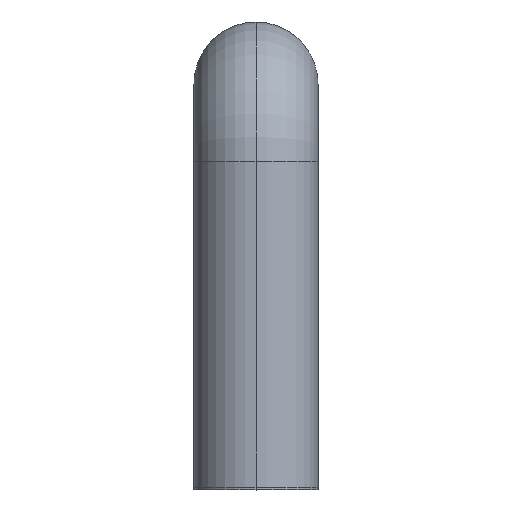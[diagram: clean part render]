
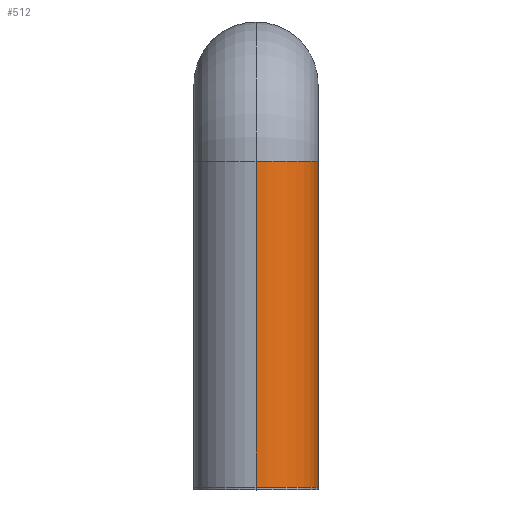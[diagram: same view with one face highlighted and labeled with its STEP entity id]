
A CAD part, top view. The second image highlights one B-rep face of the part: STEP entity #512.
In plain terms, the highlighted cylindrical face has radius 8 mm (diameter 16 mm), a partial arc.
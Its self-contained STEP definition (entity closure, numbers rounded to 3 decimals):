
#27 = VECTOR ( 'NONE', #437, 1000. ) ;
#31 = CIRCLE ( 'NONE', #135, 8. ) ;
#34 = ORIENTED_EDGE ( 'NONE', *, *, #556, .F. ) ;
#47 = CIRCLE ( 'NONE', #509, 8. ) ;
#76 = VERTEX_POINT ( 'NONE', #325 ) ;
#80 = VERTEX_POINT ( 'NONE', #386 ) ;
#91 = DIRECTION ( 'NONE',  ( 0., 0., 1. ) ) ;
#102 = LINE ( 'NONE', #527, #180 ) ;
#127 = ORIENTED_EDGE ( 'NONE', *, *, #590, .F. ) ;
#133 = DIRECTION ( 'NONE',  ( 0., 0., 1. ) ) ;
#135 = AXIS2_PLACEMENT_3D ( 'NONE', #369, #235, #133 ) ;
#149 = CARTESIAN_POINT ( 'NONE',  ( 0., 0., -8. ) ) ;
#177 = CARTESIAN_POINT ( 'NONE',  ( 0., 42., -8. ) ) ;
#180 = VECTOR ( 'NONE', #295, 1000. ) ;
#199 = DIRECTION ( 'NONE',  ( 0., 1., 0. ) ) ;
#203 = FACE_OUTER_BOUND ( 'NONE', #552, .T. ) ;
#235 = DIRECTION ( 'NONE',  ( 0., 1., 0. ) ) ;
#246 = LINE ( 'NONE', #149, #27 ) ;
#295 = DIRECTION ( 'NONE',  ( 0., 1., 0. ) ) ;
#311 = ORIENTED_EDGE ( 'NONE', *, *, #526, .T. ) ;
#325 = CARTESIAN_POINT ( 'NONE',  ( 0., 0., 8. ) ) ;
#326 = VERTEX_POINT ( 'NONE', #177 ) ;
#369 = CARTESIAN_POINT ( 'NONE',  ( 0., 0., 0. ) ) ;
#386 = CARTESIAN_POINT ( 'NONE',  ( 0., 0., -8. ) ) ;
#394 = CARTESIAN_POINT ( 'NONE',  ( 0., 0., 0. ) ) ;
#415 = EDGE_CURVE ( 'NONE', #76, #80, #31, .T. ) ;
#437 = DIRECTION ( 'NONE',  ( 0., 1., 0. ) ) ;
#461 = AXIS2_PLACEMENT_3D ( 'NONE', #394, #620, #581 ) ;
#474 = CARTESIAN_POINT ( 'NONE',  ( 0., 42., 8. ) ) ;
#477 = CYLINDRICAL_SURFACE ( 'NONE', #461, 8. ) ;
#509 = AXIS2_PLACEMENT_3D ( 'NONE', #623, #199, #91 ) ;
#512 = ADVANCED_FACE ( 'NONE', ( #203 ), #477, .T. ) ;
#526 = EDGE_CURVE ( 'NONE', #80, #326, #246, .T. ) ;
#527 = CARTESIAN_POINT ( 'NONE',  ( 0., 0., 8. ) ) ;
#552 = EDGE_LOOP ( 'NONE', ( #559, #311, #34, #127 ) ) ;
#556 = EDGE_CURVE ( 'NONE', #558, #326, #47, .T. ) ;
#558 = VERTEX_POINT ( 'NONE', #474 ) ;
#559 = ORIENTED_EDGE ( 'NONE', *, *, #415, .T. ) ;
#581 = DIRECTION ( 'NONE',  ( 0., 0., 1. ) ) ;
#590 = EDGE_CURVE ( 'NONE', #76, #558, #102, .T. ) ;
#620 = DIRECTION ( 'NONE',  ( 0., 1., 0. ) ) ;
#623 = CARTESIAN_POINT ( 'NONE',  ( 0., 42., 0. ) ) ;
